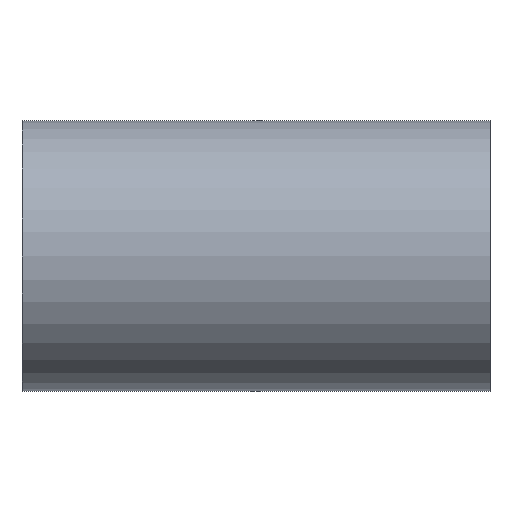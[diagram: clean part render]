
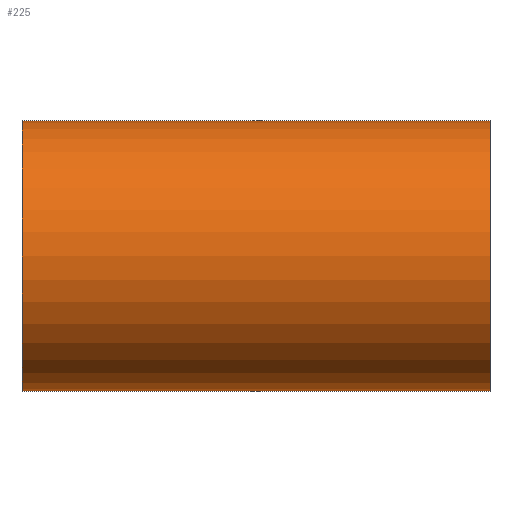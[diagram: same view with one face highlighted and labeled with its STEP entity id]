
A CAD part, front view. The second image highlights one B-rep face of the part: STEP entity #225.
In plain terms, the highlighted cylindrical face has radius 38.1 mm (diameter 76.2 mm), a partial arc.
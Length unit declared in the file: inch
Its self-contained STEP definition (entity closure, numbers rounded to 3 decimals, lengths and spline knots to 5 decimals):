
#10 = CARTESIAN_POINT ( 'NONE',  ( -2.5935, 0., 0. ) ) ;
#11 = VECTOR ( 'NONE', #282, 39.37008 ) ;
#12 = CARTESIAN_POINT ( 'NONE',  ( 0., 0., 1.5 ) ) ;
#16 = VERTEX_POINT ( 'NONE', #423 ) ;
#31 = LINE ( 'NONE', #206, #11 ) ;
#36 = CIRCLE ( 'NONE', #267, 1.5 ) ;
#43 = EDGE_CURVE ( 'NONE', #239, #16, #59, .T. ) ;
#52 = VECTOR ( 'NONE', #138, 39.37008 ) ;
#58 = ORIENTED_EDGE ( 'NONE', *, *, #203, .F. ) ;
#59 = CIRCLE ( 'NONE', #307, 1.5 ) ;
#71 = ORIENTED_EDGE ( 'NONE', *, *, #43, .F. ) ;
#75 = CARTESIAN_POINT ( 'NONE',  ( 2.5935, 0., 1.5 ) ) ;
#86 = DIRECTION ( 'NONE',  ( -1., 0., 0. ) ) ;
#98 = ORIENTED_EDGE ( 'NONE', *, *, #363, .F. ) ;
#115 = CARTESIAN_POINT ( 'NONE',  ( -2.5935, 0., -1.5 ) ) ;
#124 = LINE ( 'NONE', #75, #52 ) ;
#126 = VECTOR ( 'NONE', #86, 39.37008 ) ;
#136 = CARTESIAN_POINT ( 'NONE',  ( 2.5935, 0., 0. ) ) ;
#137 = VERTEX_POINT ( 'NONE', #207 ) ;
#138 = DIRECTION ( 'NONE',  ( -1., 0., 0. ) ) ;
#146 = CARTESIAN_POINT ( 'NONE',  ( 2.5935, 0., 1.5 ) ) ;
#167 = DIRECTION ( 'NONE',  ( 0., 0., 1. ) ) ;
#192 = VERTEX_POINT ( 'NONE', #12 ) ;
#201 = CARTESIAN_POINT ( 'NONE',  ( 0., 0., -1.5 ) ) ;
#203 = EDGE_CURVE ( 'NONE', #16, #262, #424, .T. ) ;
#204 = ORIENTED_EDGE ( 'NONE', *, *, #369, .T. ) ;
#206 = CARTESIAN_POINT ( 'NONE',  ( 2.5935, 0., -1.5 ) ) ;
#207 = CARTESIAN_POINT ( 'NONE',  ( -2.5935, 0., 1.5 ) ) ;
#225 = ADVANCED_FACE ( 'NONE', ( #375 ), #304, .T. ) ;
#239 = VERTEX_POINT ( 'NONE', #272 ) ;
#262 = VERTEX_POINT ( 'NONE', #201 ) ;
#267 = AXIS2_PLACEMENT_3D ( 'NONE', #10, #435, #429 ) ;
#269 = LINE ( 'NONE', #146, #126 ) ;
#272 = CARTESIAN_POINT ( 'NONE',  ( 2.5935, 0., 1.5 ) ) ;
#274 = ORIENTED_EDGE ( 'NONE', *, *, #345, .T. ) ;
#278 = AXIS2_PLACEMENT_3D ( 'NONE', #136, #283, #167 ) ;
#282 = DIRECTION ( 'NONE',  ( -1., 0., 0. ) ) ;
#283 = DIRECTION ( 'NONE',  ( -1., 0., 0. ) ) ;
#304 = CYLINDRICAL_SURFACE ( 'NONE', #278, 1.5 ) ;
#307 = AXIS2_PLACEMENT_3D ( 'NONE', #388, #386, #383 ) ;
#317 = DIRECTION ( 'NONE',  ( -1., 0., 0. ) ) ;
#318 = ORIENTED_EDGE ( 'NONE', *, *, #339, .T. ) ;
#323 = CARTESIAN_POINT ( 'NONE',  ( 2.5935, 0., -1.5 ) ) ;
#339 = EDGE_CURVE ( 'NONE', #137, #372, #36, .T. ) ;
#345 = EDGE_CURVE ( 'NONE', #192, #137, #269, .T. ) ;
#363 = EDGE_CURVE ( 'NONE', #262, #372, #31, .T. ) ;
#369 = EDGE_CURVE ( 'NONE', #239, #192, #124, .T. ) ;
#372 = VERTEX_POINT ( 'NONE', #115 ) ;
#375 = FACE_OUTER_BOUND ( 'NONE', #440, .T. ) ;
#383 = DIRECTION ( 'NONE',  ( 0., 0., -1. ) ) ;
#386 = DIRECTION ( 'NONE',  ( 1., 0., 0. ) ) ;
#388 = CARTESIAN_POINT ( 'NONE',  ( 2.5935, 0., 0. ) ) ;
#418 = VECTOR ( 'NONE', #317, 39.37008 ) ;
#423 = CARTESIAN_POINT ( 'NONE',  ( 2.5935, 0., -1.5 ) ) ;
#424 = LINE ( 'NONE', #323, #418 ) ;
#429 = DIRECTION ( 'NONE',  ( 0., 0., -1. ) ) ;
#435 = DIRECTION ( 'NONE',  ( 1., 0., 0. ) ) ;
#440 = EDGE_LOOP ( 'NONE', ( #58, #71, #204, #274, #318, #98 ) ) ;
